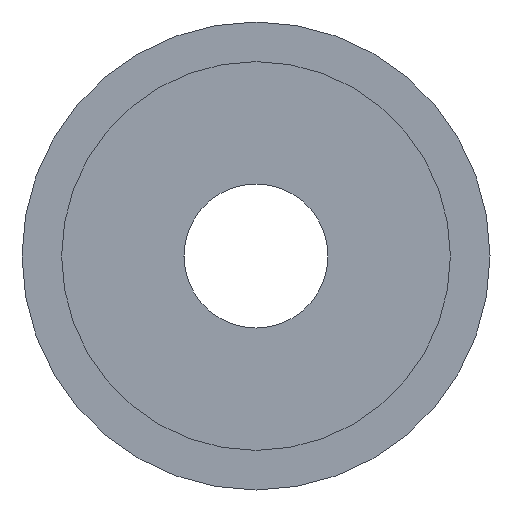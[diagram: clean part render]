
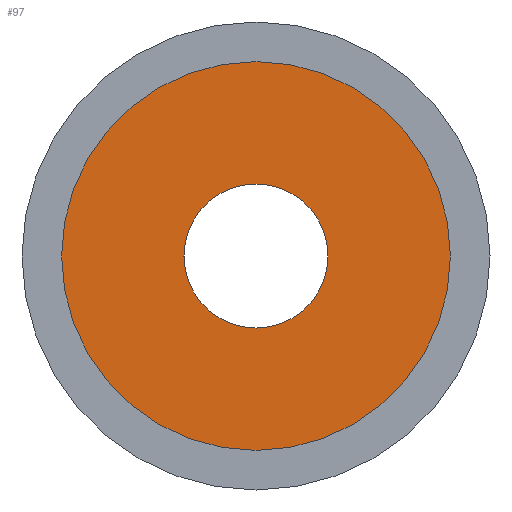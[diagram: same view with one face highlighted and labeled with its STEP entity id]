
A CAD part, front view. The second image highlights one B-rep face of the part: STEP entity #97.
In plain terms, the highlighted planar face has unit normal (0, -1, 0).
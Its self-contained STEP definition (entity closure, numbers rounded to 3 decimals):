
#96 = ORIENTED_EDGE ( 'NONE', *, *, #208, .T. ) ;
#97 = ADVANCED_FACE ( 'NONE', ( #312, #311 ), #310, .F. ) ;
#98 = EDGE_LOOP ( 'NONE', ( #96, #110 ) ) ;
#110 = ORIENTED_EDGE ( 'NONE', *, *, #111, .T. ) ;
#111 = EDGE_CURVE ( 'NONE', #206, #209, #351, .T. ) ;
#112 = EDGE_LOOP ( 'NONE', ( #113, #114 ) ) ;
#113 = ORIENTED_EDGE ( 'NONE', *, *, #150, .T. ) ;
#114 = ORIENTED_EDGE ( 'NONE', *, *, #115, .T. ) ;
#115 = EDGE_CURVE ( 'NONE', #148, #151, #345, .T. ) ;
#148 = VERTEX_POINT ( 'NONE', #430 ) ;
#150 = EDGE_CURVE ( 'NONE', #151, #148, #429, .T. ) ;
#151 = VERTEX_POINT ( 'NONE', #424 ) ;
#206 = VERTEX_POINT ( 'NONE', #542 ) ;
#208 = EDGE_CURVE ( 'NONE', #209, #206, #547, .T. ) ;
#209 = VERTEX_POINT ( 'NONE', #502 ) ;
#306 = DIRECTION ( 'NONE',  ( 0., 0., 1. ) ) ;
#307 = DIRECTION ( 'NONE',  ( 0., 1., 0. ) ) ;
#308 = CARTESIAN_POINT ( 'NONE',  ( 0., 0., 0. ) ) ;
#309 = AXIS2_PLACEMENT_3D ( 'NONE', #308, #307, #306 ) ;
#310 = PLANE ( 'NONE',  #309 ) ;
#311 = FACE_BOUND ( 'NONE', #112, .T. ) ;
#312 = FACE_OUTER_BOUND ( 'NONE', #98, .T. ) ;
#341 = DIRECTION ( 'NONE',  ( 0., 0., 1. ) ) ;
#342 = DIRECTION ( 'NONE',  ( 0., 1., 0. ) ) ;
#343 = CARTESIAN_POINT ( 'NONE',  ( 0., 0., 0. ) ) ;
#344 = AXIS2_PLACEMENT_3D ( 'NONE', #343, #342, #341 ) ;
#345 = CIRCLE ( 'NONE', #344, 2. ) ;
#347 = DIRECTION ( 'NONE',  ( 0., 0., -1. ) ) ;
#348 = DIRECTION ( 'NONE',  ( 0., -1., 0. ) ) ;
#349 = CARTESIAN_POINT ( 'NONE',  ( 0., 0., 0. ) ) ;
#350 = AXIS2_PLACEMENT_3D ( 'NONE', #349, #348, #347 ) ;
#351 = CIRCLE ( 'NONE', #350, 5.4 ) ;
#424 = CARTESIAN_POINT ( 'NONE',  ( 0., 0., -2. ) ) ;
#425 = DIRECTION ( 'NONE',  ( 0., 0., 1. ) ) ;
#426 = DIRECTION ( 'NONE',  ( 0., 1., 0. ) ) ;
#427 = CARTESIAN_POINT ( 'NONE',  ( 0., 0., 0. ) ) ;
#428 = AXIS2_PLACEMENT_3D ( 'NONE', #427, #426, #425 ) ;
#429 = CIRCLE ( 'NONE', #428, 2. ) ;
#430 = CARTESIAN_POINT ( 'NONE',  ( 0., 0., 2. ) ) ;
#502 = CARTESIAN_POINT ( 'NONE',  ( 0., 0., -5.4 ) ) ;
#503 = DIRECTION ( 'NONE',  ( 0., 0., -1. ) ) ;
#504 = DIRECTION ( 'NONE',  ( 0., -1., 0. ) ) ;
#542 = CARTESIAN_POINT ( 'NONE',  ( 0., 0., 5.4 ) ) ;
#545 = CARTESIAN_POINT ( 'NONE',  ( 0., 0., 0. ) ) ;
#546 = AXIS2_PLACEMENT_3D ( 'NONE', #545, #504, #503 ) ;
#547 = CIRCLE ( 'NONE', #546, 5.4 ) ;
